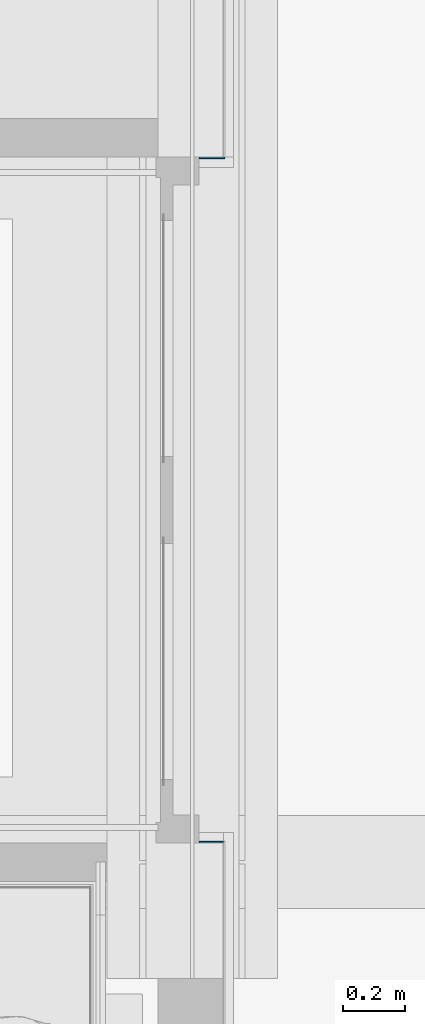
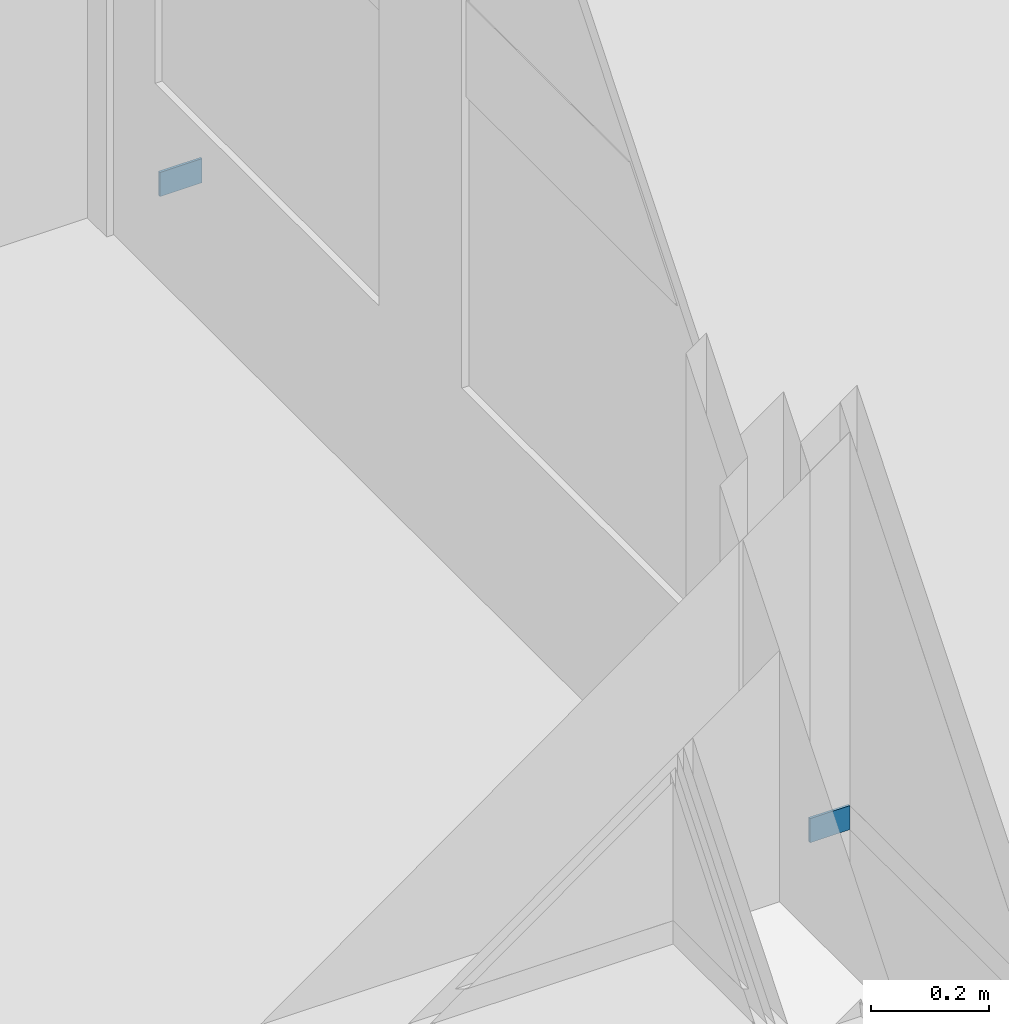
# One storey, part 150 of 347: 2 building element parts, 2 elements without a shape of their own.
"""IFC2X3 building model written with IfcOpenShell, lengths in millimetres."""

from ifc_helpers import new_model, entity, si_unit, converted_unit, derived_unit, money_unit, direction, frame, origin_with_axes, place, context, subcontext, project, spatial, faceted_brep, material, type_object, element, aggregate, save


model = new_model("IFC2X3")

# Units and contexts
model_context = context("Model", 3, precision=0.01, world=origin_with_axes(), true_north=direction((0.0, 1.0)))
plan_context = context("Plan", 3, precision=0.01, world=origin_with_axes(), true_north=direction((0.0, 1.0)))
body_context = subcontext(model_context, "Body", "Model", "MODEL_VIEW")
ifc_project = project(units=[si_unit("LENGTHUNIT", "METRE", prefix="MILLI"), si_unit("AREAUNIT", "SQUARE_METRE"), si_unit("VOLUMEUNIT", "CUBIC_METRE"), converted_unit("PLANEANGLEUNIT", "DEGREE", entity("IfcPlaneAngleMeasure", 0.0174532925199), si_unit("PLANEANGLEUNIT", "RADIAN"), dimensions=[0, 0, 0, 0, 0, 0, 0]), money_unit("EUR"), converted_unit("TIMEUNIT", "Year", entity("IfcTimeMeasure", 31556926.0), si_unit("TIMEUNIT", "SECOND"), dimensions=[0, 0, 1, 0, 0, 0, 0]), si_unit("MASSUNIT", "GRAM", prefix="KILO"), si_unit("THERMODYNAMICTEMPERATUREUNIT", "DEGREE_CELSIUS"), si_unit("LUMINOUSINTENSITYUNIT", "LUMEN"), si_unit("ENERGYUNIT", "JOULE", prefix="MEGA"), derived_unit("THERMALCONDUCTANCEUNIT", [(si_unit("POWERUNIT", "WATT"), 1), (si_unit("LENGTHUNIT", "METRE"), -1), (si_unit("THERMODYNAMICTEMPERATUREUNIT", "KELVIN"), -1)]), derived_unit("SPECIFICHEATCAPACITYUNIT", [(si_unit("ENERGYUNIT", "JOULE"), 1), (si_unit("MASSUNIT", "GRAM", prefix="KILO"), -1), (si_unit("THERMODYNAMICTEMPERATUREUNIT", "KELVIN"), -1)]), derived_unit("MASSDENSITYUNIT", [(si_unit("MASSUNIT", "GRAM", prefix="KILO"), 1), (si_unit("VOLUMEUNIT", "CUBIC_METRE"), -1)])], contexts=[model_context, plan_context])

# Site, building, storey
site_placement = place(None, origin_with_axes())
site = spatial("IfcSite", under=ifc_project, at=site_placement, Name="Site", CompositionType="ELEMENT")
building_placement = place(site_placement, origin_with_axes())
building = spatial("IfcBuilding", under=site, at=building_placement, Name="Naam gebouw", CompositionType="ELEMENT")
storey_placement = place(building_placement, origin_with_axes())
storey = spatial("IfcBuildingStorey", under=building, at=storey_placement, Name="begane grond", CompositionType="ELEMENT", Elevation=0.0)

# Proxy, building element part
building_element_proxy_type = type_object("IfcBuildingElementProxyType", Name="Viltonwand 2600+ 33 x 2600", PredefinedType="NOTDEFINED")
proxy_1_placement = place(storey_placement, frame((35627.0, 14400.0, 0.0), z_axis=(0.0, 0.0, 1.0), x_axis=(1.0, 0.0, 0.0)))
proxy_1 = element("IfcBuildingElementProxy", 1, at=proxy_1_placement, inside=storey, type_object=building_element_proxy_type, Name="42_46 wandtegels keramisch")
ifc_material = material(Name="Kunststof - massief")
building_element_part_1_placement = place(proxy_1_placement, origin_with_axes())
building_element_part_1 = element("IfcBuildingElementPart", 2, at=building_element_part_1_placement, material=ifc_material, Name="Kunststof - massief", context=body_context, shape_type="Brep", body=[
    faceted_brep([(83.0000178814, -5.00000596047, 50.0000059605), (83.0000178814, 1.78814101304e-05, 50.0000059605), (0.0, 1.78814101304e-05, 50.0000059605), (0.0, -5.00000596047, 50.0000059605), (83.0000178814, 1.78814101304e-05, 0.0), (83.0000178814, -5.00000596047, 0.0), (0.0, 1.78814101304e-05, 0.0), (0.0, -5.00000596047, 0.0)], [[[0, 1, 2, 3]], [[4, 1, 0, 5]], [[1, 4, 6, 2]], [[2, 6, 7, 3]], [[5, 0, 3, 7]], [[4, 5, 7, 6]]]),
])
aggregate(proxy_1, [building_element_part_1])

proxy_2_placement = place(storey_placement, frame((35705.0, 12187.5, 0.0), z_axis=(0.0, 0.0, 1.0), x_axis=(-1.0, 0.0, 0.0)))
proxy_2 = element("IfcBuildingElementProxy", 3, at=proxy_2_placement, inside=storey, type_object=building_element_proxy_type, Name="42_51 wandtegels keramisch")
building_element_part_2_placement = place(proxy_2_placement, origin_with_axes())
building_element_part_2 = element("IfcBuildingElementPart", 4, at=building_element_part_2_placement, material=ifc_material, Name="Kunststof - massief", context=body_context, shape_type="Brep", body=[
    faceted_brep([(1.78814261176e-05, 1.78814101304e-05, 50.0000059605), (1.78814261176e-05, -5.00000596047, 50.0000059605), (78.0, -5.00000596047, 50.0000059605), (78.0, 1.78814101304e-05, 50.0000059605), (1.78814261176e-05, -5.00000596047, 0.0), (1.78814261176e-05, 1.78814119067e-05, 0.0), (78.0, -5.00000596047, 0.0), (78.0, 1.78814101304e-05, 0.0)], [[[0, 1, 2, 3]], [[4, 1, 0, 5]], [[1, 4, 6, 2]], [[2, 6, 7, 3]], [[5, 0, 3, 7]], [[4, 5, 7, 6]]]),
])
aggregate(proxy_2, [building_element_part_2])

save(model, "model.ifc")
